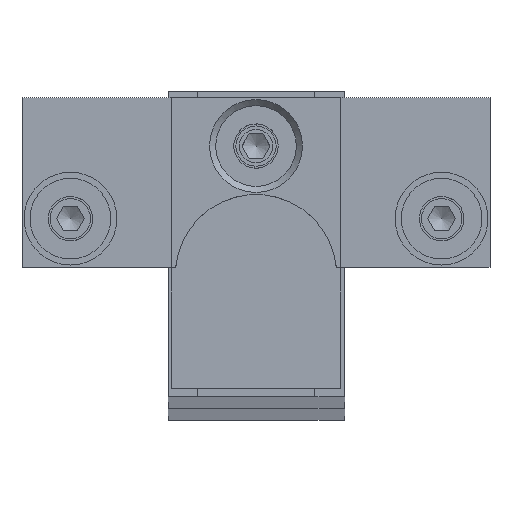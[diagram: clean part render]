
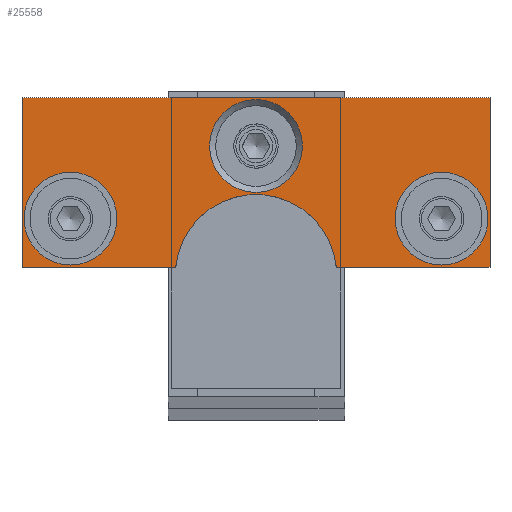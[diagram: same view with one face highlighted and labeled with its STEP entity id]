
A CAD part, top view. The second image highlights one B-rep face of the part: STEP entity #25558.
In plain terms, the highlighted planar face has unit normal (0, 0, 1).
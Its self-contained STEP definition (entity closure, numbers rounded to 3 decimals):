
#343=FACE_BOUND('',#3347,.T.);
#344=FACE_BOUND('',#3348,.T.);
#345=FACE_BOUND('',#3349,.T.);
#713=PLANE('',#27600);
#1849=FACE_OUTER_BOUND('',#3346,.T.);
#3346=EDGE_LOOP('',(#17628,#17629,#17630,#17631,#17632,#17633));
#3347=EDGE_LOOP('',(#17634));
#3348=EDGE_LOOP('',(#17635));
#3349=EDGE_LOOP('',(#17636));
#5285=LINE('',#43623,#6236);
#5286=LINE('',#43625,#6237);
#5287=LINE('',#43627,#6238);
#5288=LINE('',#43631,#6239);
#5289=LINE('',#43632,#6240);
#6236=VECTOR('',#32459,10.);
#6237=VECTOR('',#32460,10.);
#6238=VECTOR('',#32461,10.);
#6239=VECTOR('',#32464,10.);
#6240=VECTOR('',#32465,10.);
#7420=CIRCLE('',#27598,5.75);
#7422=CIRCLE('',#27601,10.);
#7423=CIRCLE('',#27602,5.75);
#7424=CIRCLE('',#27603,5.75);
#9992=VERTEX_POINT('',#43615);
#9994=VERTEX_POINT('',#43621);
#9995=VERTEX_POINT('',#43622);
#9996=VERTEX_POINT('',#43624);
#9997=VERTEX_POINT('',#43626);
#9998=VERTEX_POINT('',#43628);
#9999=VERTEX_POINT('',#43630);
#10000=VERTEX_POINT('',#43633);
#10001=VERTEX_POINT('',#43635);
#13029=EDGE_CURVE('',#9992,#9992,#7420,.T.);
#13032=EDGE_CURVE('',#9994,#9995,#5285,.T.);
#13033=EDGE_CURVE('',#9995,#9996,#5286,.T.);
#13034=EDGE_CURVE('',#9996,#9997,#5287,.T.);
#13035=EDGE_CURVE('',#9997,#9998,#7422,.T.);
#13036=EDGE_CURVE('',#9998,#9999,#5288,.T.);
#13037=EDGE_CURVE('',#9999,#9994,#5289,.T.);
#13038=EDGE_CURVE('',#10000,#10000,#7423,.T.);
#13039=EDGE_CURVE('',#10001,#10001,#7424,.T.);
#17628=ORIENTED_EDGE('',*,*,#13032,.T.);
#17629=ORIENTED_EDGE('',*,*,#13033,.T.);
#17630=ORIENTED_EDGE('',*,*,#13034,.T.);
#17631=ORIENTED_EDGE('',*,*,#13035,.T.);
#17632=ORIENTED_EDGE('',*,*,#13036,.T.);
#17633=ORIENTED_EDGE('',*,*,#13037,.T.);
#17634=ORIENTED_EDGE('',*,*,#13038,.F.);
#17635=ORIENTED_EDGE('',*,*,#13039,.F.);
#17636=ORIENTED_EDGE('',*,*,#13029,.F.);
#25558=ADVANCED_FACE('',(#1849,#343,#344,#345),#713,.T.);
#27598=AXIS2_PLACEMENT_3D('',#43616,#32452,#32453);
#27600=AXIS2_PLACEMENT_3D('',#43620,#32457,#32458);
#27601=AXIS2_PLACEMENT_3D('',#43629,#32462,#32463);
#27602=AXIS2_PLACEMENT_3D('',#43634,#32466,#32467);
#27603=AXIS2_PLACEMENT_3D('',#43636,#32468,#32469);
#32452=DIRECTION('center_axis',(0.,0.,
1.));
#32453=DIRECTION('ref_axis',(-1.,0.,0.));
#32457=DIRECTION('center_axis',(0.,0.,
1.));
#32458=DIRECTION('ref_axis',(1.,0.,0.));
#32459=DIRECTION('',(-1.,0.,0.));
#32460=DIRECTION('',(0.,-1.,0.));
#32461=DIRECTION('',(1.,0.,0.));
#32462=DIRECTION('center_axis',(0.,0.,
-1.));
#32463=DIRECTION('ref_axis',(0.995,0.1,0.));
#32464=DIRECTION('',(1.,0.,0.));
#32465=DIRECTION('',(0.,1.,0.));
#32466=DIRECTION('center_axis',(0.,0.,
1.));
#32467=DIRECTION('ref_axis',(-1.,0.,0.));
#32468=DIRECTION('center_axis',(0.,0.,
1.));
#32469=DIRECTION('ref_axis',(-1.,0.,0.));
#43615=CARTESIAN_POINT('',(39.65,22.,456.));
#43616=CARTESIAN_POINT('Origin',(33.9,22.,456.));
#43620=CARTESIAN_POINT('Origin',(10.9,27.153,456.));
#43621=CARTESIAN_POINT('',(39.9,37.,456.));
#43622=CARTESIAN_POINT('',(-18.1,37.,456.));
#43623=CARTESIAN_POINT('',(-18.1,37.,456.));
#43624=CARTESIAN_POINT('',(-18.1,16.,456.));
#43625=CARTESIAN_POINT('',(-18.1,16.,456.));
#43626=CARTESIAN_POINT('',(0.95,16.,456.));
#43627=CARTESIAN_POINT('',(0.95,16.,456.));
#43628=CARTESIAN_POINT('',(20.85,16.,456.));
#43629=CARTESIAN_POINT('Origin',(10.9,15.,456.));
#43630=CARTESIAN_POINT('',(39.9,16.,456.));
#43631=CARTESIAN_POINT('',(39.9,16.,456.));
#43632=CARTESIAN_POINT('',(39.9,37.,456.));
#43633=CARTESIAN_POINT('',(16.65,31.,456.));
#43634=CARTESIAN_POINT('Origin',(10.9,31.,456.));
#43635=CARTESIAN_POINT('',(-6.35,22.,456.));
#43636=CARTESIAN_POINT('Origin',(-12.1,22.,456.));
